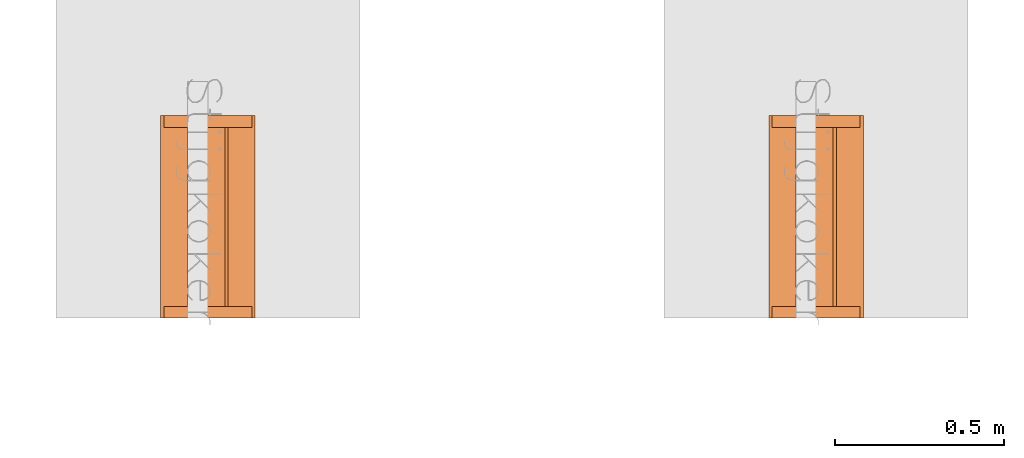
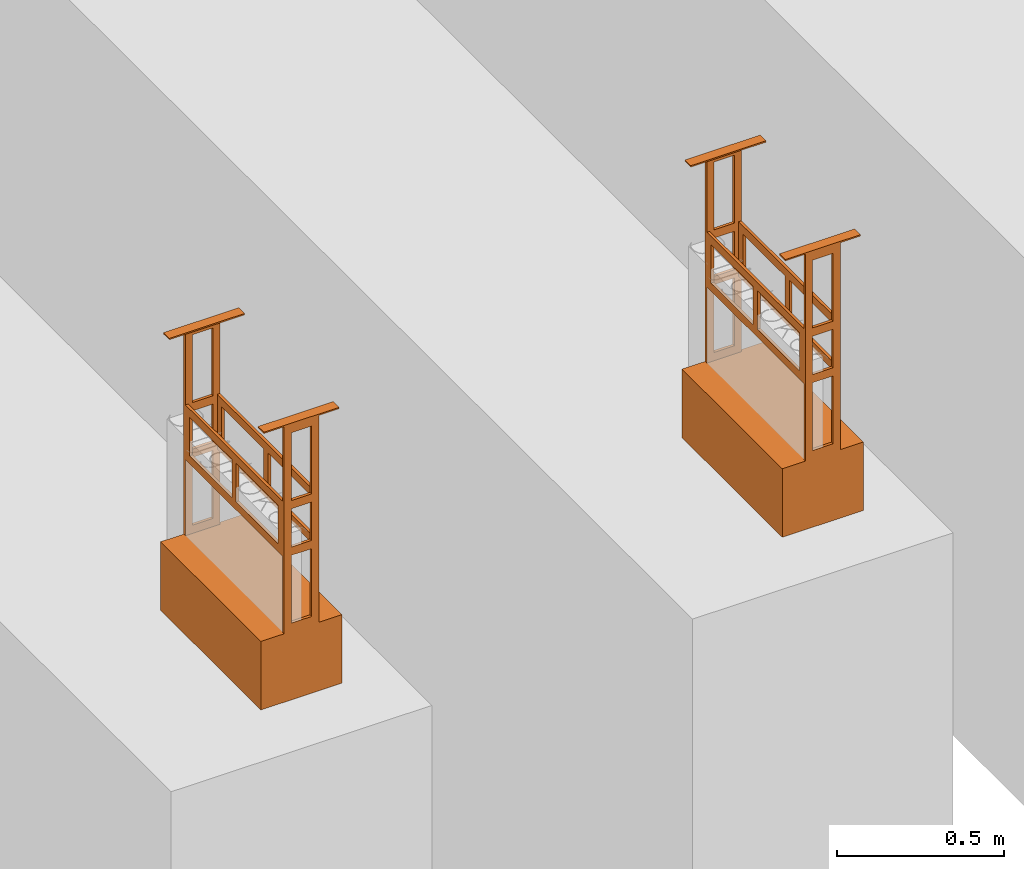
# One storey, part 22 of 43: 2 proxies.
"""IFC2X3 building model written with IfcOpenShell, lengths in metres."""

import ifcopenshell
import ifcopenshell.guid

model = None  # the IFC model being written
_history = None  # IfcOwnerHistory: only IFC2X3 demands one
_inside = {}  # id of a spatial element -> (the spatial element, [elements in it])
_under = {}  # id of a project, library or spatial element -> (it, [spatial elements below it])
_declared = {}  # id of a project -> (the project, [libraries it declares])
_typed = {}  # id of a type object -> (the type object, [elements of that type])
_made_of = {}  # id of a material, layer set ... -> (it, [elements and type objects made of it])


def new_model(schema):
    """Start an empty IFC model of exactly this schema.

    Asked for "IFC4X3", IfcOpenShell would pick the latest addendum, in which some entities
    have other attributes; the version numbers below select the first issue.
    IFC2X3 requires an IfcOwnerHistory on every rooted entity: one is made here for all.
    """
    global model, _history
    if schema == "IFC4X3":
        model = ifcopenshell.file(schema_version=(4, 3, 0, 0))
    else:
        model = ifcopenshell.file(schema=schema)
    _inside.clear()
    _under.clear()
    _declared.clear()
    _typed.clear()
    _made_of.clear()
    _history = None
    if model.schema == "IFC2X3":
        org = make("IfcOrganization", Name="unknown")
        user = make(
            "IfcPersonAndOrganization",
            ThePerson=make("IfcPerson", FamilyName="unknown"),
            TheOrganization=org,
        )
        app = make(
            "IfcApplication",
            ApplicationDeveloper=org,
            Version="unknown",
            ApplicationFullName="unknown",
            ApplicationIdentifier="unknown",
        )
        _history = make(
            "IfcOwnerHistory",
            OwningUser=user,
            OwningApplication=app,
            ChangeAction="ADDED",
            CreationDate=0,
        )
    return model


def make(cls, **values):
    """One entity of the class cls with the attributes given. An attribute that is None is left unset."""
    return model.create_entity(
        cls, **{name: value for name, value in values.items() if value is not None}
    )


def entity(cls, *values):
    """Any entity or typed value of the class cls, its attributes in the order of the schema. None: left unset."""
    e = model.create_entity(cls)
    for i, value in enumerate(values):
        if value is not None:
            e[i] = value
    return e


def rooted(cls, **values):
    """An entity with a GlobalId (a new one), such as an element, a storey or a relation."""
    return make(cls, GlobalId=ifcopenshell.guid.new(), OwnerHistory=_history, **values)


def si_unit(unit_type, name, prefix=None):
    """IfcSIUnit, for example si_unit("LENGTHUNIT", "METRE", prefix="MILLI")."""
    return make("IfcSIUnit", UnitType=unit_type, Prefix=prefix, Name=name)


def converted_unit(unit_type, name, factor, base, dimensions=None, offset=None):
    """IfcConversionBasedUnit, such as the inch: factor (a typed value) times the base unit."""
    return make(
        "IfcConversionBasedUnit"
        if offset is None
        else "IfcConversionBasedUnitWithOffset",
        ConversionOffset=offset,
        Dimensions=None
        if dimensions is None
        else entity("IfcDimensionalExponents", *dimensions),
        UnitType=unit_type,
        Name=name,
        ConversionFactor=make(
            "IfcMeasureWithUnit", ValueComponent=factor, UnitComponent=base
        ),
    )


def derived_unit(unit_type, elements):
    """IfcDerivedUnit: a product of units, each with its exponent."""
    return make(
        "IfcDerivedUnit",
        Elements=[
            make("IfcDerivedUnitElement", Unit=unit, Exponent=power)
            for unit, power in elements
        ],
        UnitType=unit_type,
    )


def assignment(units):
    """IfcUnitAssignment: the units of a project."""
    return None if units is None else make("IfcUnitAssignment", Units=units)


def point(xyz):
    """IfcCartesianPoint."""
    return None if xyz is None else make("IfcCartesianPoint", Coordinates=xyz)


def direction(xyz):
    """IfcDirection."""
    return None if xyz is None else make("IfcDirection", DirectionRatios=xyz)


def frame(location, z_axis=None, x_axis=None):
    """IfcAxis2Placement3D, a coordinate frame: its origin and axes. An axis left out is left unset."""
    return make(
        "IfcAxis2Placement3D",
        Location=point(location),
        Axis=direction(z_axis),
        RefDirection=direction(x_axis),
    )


def origin():
    """The frame at (0, 0, 0) with its axes left unset."""
    return frame((0.0, 0.0, 0.0))


def place(relative_to, where):
    """IfcLocalPlacement: puts the frame where relative to a parent placement (None: the world)."""
    return make(
        "IfcLocalPlacement", PlacementRelTo=relative_to, RelativePlacement=where
    )


def context(
    kind, dimensions, precision=None, world=None, true_north=None, identifier=None
):
    """IfcGeometricRepresentationContext, for example the 3D "Model" context."""
    return make(
        "IfcGeometricRepresentationContext",
        ContextIdentifier=identifier,
        ContextType=kind,
        CoordinateSpaceDimension=dimensions,
        Precision=precision,
        WorldCoordinateSystem=world,
        TrueNorth=true_north,
    )


def subcontext(parent, identifier, kind, view, scale=None):
    """IfcGeometricRepresentationSubContext, for example "Body" below "Model"."""
    return make(
        "IfcGeometricRepresentationSubContext",
        ContextIdentifier=identifier,
        ContextType=kind,
        ParentContext=parent,
        TargetScale=scale,
        TargetView=view,
    )


def project(units=None, contexts=None):
    """IfcProject with its units and contexts."""
    return rooted(
        "IfcProject",
        Name="project",
        RepresentationContexts=contexts,
        UnitsInContext=assignment(units),
    )


def spatial(cls, under=None, at=None, **own):
    """A site, building, storey or space (cls), placed at a placement, below another one or the project."""
    s = rooted(cls, ObjectPlacement=at, **own)
    if under is not None:
        _under.setdefault(under.id(), (under, []))[1].append(s)
    return s


def faces_of(points, faces, orient=None, outer=None):
    """IfcFace entities. A face is a list of loops; a loop is a list of indices into points, from 0.

    orient and outer hold one flag for each loop. By default every Orientation is true, the
    first loop of a face is its IfcFaceOuterBound and the others are IfcFaceBound.
    """
    made = []
    for i, loops in enumerate(faces):
        bounds = []
        for j, loop in enumerate(loops):
            is_outer = j == 0 if outer is None else outer[i][j]
            bounds.append(
                make(
                    "IfcFaceOuterBound" if is_outer else "IfcFaceBound",
                    Bound=make("IfcPolyLoop", Polygon=[points[k] for k in loop]),
                    Orientation=True if orient is None else orient[i][j],
                )
            )
        made.append(make("IfcFace", Bounds=bounds))
    return made


def faceted_brep(points, faces, orient=None, outer=None, voids=None):
    """IfcFacetedBrep: a solid bounded by flat faces; with voids (closed shells), ...WithVoids."""
    shared = [point(p) for p in points]
    hull = make("IfcClosedShell", CfsFaces=faces_of(shared, faces, orient, outer))
    if voids is None:
        return make("IfcFacetedBrep", Outer=hull)
    return make(
        "IfcFacetedBrepWithVoids",
        Outer=hull,
        Voids=[
            make(cls, CfsFaces=faces_of(shared, fs, o, b)) for cls, fs, o, b in voids
        ],
    )


def shape(context_of_items, identifier, shape_type, items):
    """IfcShapeRepresentation: the items that make up one representation, for example the "Body"."""
    return make(
        "IfcShapeRepresentation",
        ContextOfItems=context_of_items,
        RepresentationIdentifier=identifier,
        RepresentationType=shape_type,
        Items=items,
    )


def source(mapping_origin, context_of_items, identifier, shape_type, items):
    """IfcRepresentationMap: a shape defined once, which mapped items show again and again."""
    return make(
        "IfcRepresentationMap",
        MappingOrigin=mapping_origin,
        MappedRepresentation=shape(context_of_items, identifier, shape_type, items),
    )


def transform(
    local_origin,
    x_axis=None,
    y_axis=None,
    z_axis=None,
    scale=None,
    scale2=None,
    scale3=None,
    uniform=True,
):
    """IfcCartesianTransformationOperator3D, or its non-uniform kind. x_axis, y_axis, z_axis: its Axis1, 2, 3."""
    if uniform:
        return make(
            "IfcCartesianTransformationOperator3D",
            Axis1=direction(x_axis),
            Axis2=direction(y_axis),
            LocalOrigin=point(local_origin),
            Scale=scale,
            Axis3=direction(z_axis),
        )
    return make(
        "IfcCartesianTransformationOperator3DnonUniform",
        Axis1=direction(x_axis),
        Axis2=direction(y_axis),
        LocalOrigin=point(local_origin),
        Scale=scale,
        Axis3=direction(z_axis),
        Scale2=scale2,
        Scale3=scale3,
    )


def mapped(mapping_source, mapping_target):
    """IfcMappedItem: shows the shape of a source again, moved by a transform."""
    return make(
        "IfcMappedItem", MappingSource=mapping_source, MappingTarget=mapping_target
    )


def material(Name=None, Category=None):
    """IfcMaterial."""
    return make("IfcMaterial", Name=Name, Category=Category)


def material_list(materials):
    """IfcMaterialList."""
    return make("IfcMaterialList", Materials=materials)


def made_of(thing, what):
    """Note that an element or type object is made of a material, layer set ...; save() writes the relation."""
    if what is not None:
        _made_of.setdefault(what.id(), (what, []))[1].append(thing)
    return thing


def type_object(cls, material=None, **own):
    """A type object (cls), such as IfcWallType, which elements share."""
    return made_of(rooted(cls, **own), material)


def type_shapes(of_type, sources):
    """Give a type object the sources (RepresentationMaps) that its elements show as mapped items."""
    of_type.RepresentationMaps = sources


def element(
    cls,
    number,
    at=None,
    inside=None,
    cuts=None,
    type_object=None,
    material=None,
    context=None,
    identifier="Body",
    shape_type=None,
    held_by="IfcProductDefinitionShape",
    body=None,
    shapes=None,
    **own,
):
    """One element of the class cls, such as IfcWall. Its Tag is "e" and its number.

    at: its placement. inside: the storey or other place that contains it. cuts: it is an
    opening in that element (IfcRelVoidsElement). A single representation is given by context,
    identifier, shape_type and body (its items); several are given by shapes. held_by: the class
    of the entity that holds the representations. save() writes the other relations.
    """
    e = rooted(cls, Tag="e%d" % number, ObjectPlacement=at, **own)
    if body is not None:
        shapes = [shape(context, identifier, shape_type, body)]
    if shapes is not None:
        e.Representation = make(held_by, Representations=shapes)
    if inside is not None:
        _inside.setdefault(inside.id(), (inside, []))[1].append(e)
    if cuts is not None:
        rooted(
            "IfcRelVoidsElement", RelatingBuildingElement=cuts, RelatedOpeningElement=e
        )
    if type_object is not None:
        _typed.setdefault(type_object.id(), (type_object, []))[1].append(e)
    return made_of(e, material)


def aggregate(whole, parts):
    """IfcRelAggregates: a whole, such as a stair, and the parts it consists of."""
    return rooted("IfcRelAggregates", RelatingObject=whole, RelatedObjects=parts)


def save(model, path):
    """Write the relations noted so far, then the file.

    IfcRelAggregates (storeys below a building ...), IfcRelContainedInSpatialStructure (elements
    in a storey), IfcRelDefinesByType, IfcRelAssociatesMaterial and IfcRelDeclares: one each for
    every whole, place, type object, material and project.
    """
    for whole, parts in _under.values():
        aggregate(whole, parts)
    for where, things in _inside.values():
        rooted(
            "IfcRelContainedInSpatialStructure",
            RelatedElements=things,
            RelatingStructure=where,
        )
    for kind, things in _typed.values():
        rooted("IfcRelDefinesByType", RelatedObjects=things, RelatingType=kind)
    for what, things in _made_of.values():
        rooted("IfcRelAssociatesMaterial", RelatedObjects=things, RelatingMaterial=what)
    for by, libraries in _declared.values():
        rooted("IfcRelDeclares", RelatingContext=by, RelatedDefinitions=libraries)
    model.write(path)


model = new_model("IFC2X3")

# Units and contexts
model_context = context("Model", 3, precision=1e-05, world=origin(), true_north=direction((6.12303176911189e-17, 1.0)))
body_context = subcontext(model_context, "Body", "Model", "MODEL_VIEW")
ifc_project = project(units=[si_unit("LENGTHUNIT", "METRE"), si_unit("AREAUNIT", "SQUARE_METRE"), si_unit("VOLUMEUNIT", "CUBIC_METRE"), converted_unit("PLANEANGLEUNIT", "DEGREE", entity("IfcRatioMeasure", 0.0174532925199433), si_unit("PLANEANGLEUNIT", "RADIAN"), dimensions=[0, 0, 0, 0, 0, 0, 0]), si_unit("MASSUNIT", "GRAM", prefix="KILO"), derived_unit("MASSDENSITYUNIT", [(si_unit("MASSUNIT", "GRAM", prefix="KILO"), 1), (si_unit("LENGTHUNIT", "METRE"), -3)]), derived_unit("MOMENTOFINERTIAUNIT", [(si_unit("LENGTHUNIT", "METRE"), 4)]), si_unit("TIMEUNIT", "SECOND"), si_unit("FREQUENCYUNIT", "HERTZ"), si_unit("THERMODYNAMICTEMPERATUREUNIT", "DEGREE_CELSIUS"), derived_unit("THERMALTRANSMITTANCEUNIT", [(si_unit("MASSUNIT", "GRAM", prefix="KILO"), 1), (si_unit("THERMODYNAMICTEMPERATUREUNIT", "KELVIN"), -1), (si_unit("TIMEUNIT", "SECOND"), -3)]), derived_unit("VOLUMETRICFLOWRATEUNIT", [(si_unit("LENGTHUNIT", "METRE"), 3), (si_unit("TIMEUNIT", "SECOND"), -1)]), si_unit("ELECTRICCURRENTUNIT", "AMPERE"), si_unit("ELECTRICVOLTAGEUNIT", "VOLT"), si_unit("POWERUNIT", "WATT"), si_unit("FORCEUNIT", "NEWTON", prefix="KILO"), si_unit("ILLUMINANCEUNIT", "LUX"), si_unit("LUMINOUSFLUXUNIT", "LUMEN"), si_unit("LUMINOUSINTENSITYUNIT", "CANDELA"), derived_unit("USERDEFINED", [(si_unit("MASSUNIT", "GRAM", prefix="KILO"), -1), (si_unit("LENGTHUNIT", "METRE"), -2), (si_unit("TIMEUNIT", "SECOND"), 3), (si_unit("LUMINOUSFLUXUNIT", "LUMEN"), 1)]), derived_unit("LINEARVELOCITYUNIT", [(si_unit("LENGTHUNIT", "METRE"), 1), (si_unit("TIMEUNIT", "SECOND"), -1)]), si_unit("PRESSUREUNIT", "PASCAL"), derived_unit("USERDEFINED", [(si_unit("LENGTHUNIT", "METRE"), -2), (si_unit("MASSUNIT", "GRAM", prefix="KILO"), 1), (si_unit("TIMEUNIT", "SECOND"), -2)]), derived_unit("LINEARFORCEUNIT", [(si_unit("MASSUNIT", "GRAM", prefix="KILO"), 1), (si_unit("LENGTHUNIT", "METRE"), 1), (si_unit("TIMEUNIT", "SECOND"), -2), (si_unit("LENGTHUNIT", "METRE"), -1)]), derived_unit("PLANARFORCEUNIT", [(si_unit("MASSUNIT", "GRAM", prefix="KILO"), 1), (si_unit("LENGTHUNIT", "METRE"), 1), (si_unit("TIMEUNIT", "SECOND"), -2), (si_unit("LENGTHUNIT", "METRE"), -2)])], contexts=[model_context])

# Site, building, storey
site_placement = place(None, origin())
site = spatial("IfcSite", under=ifc_project, at=site_placement, Name="Default", CompositionType="ELEMENT")
building_placement = place(site_placement, origin())
building = spatial("IfcBuilding", under=site, at=building_placement, CompositionType="ELEMENT")
storey_placement = place(building_placement, frame((0.0, 0.0, 3.0)))
storey = spatial("IfcBuildingStorey", under=building, at=storey_placement, Name="01 OG", CompositionType="ELEMENT", Elevation=3.0)

# Proxies
ifc_material_1 = material(Name="dh_Weiß")
ifc_material_2 = material(Name="dh_EZ blau")
ifc_material_list = material_list([ifc_material_2, ifc_material_1])
building_element_proxy_type = type_object("IfcBuildingElementProxyType", Name="dh_Doppel_ MEK:DMEK 60", PredefinedType="NOTDEFINED", material=ifc_material_list)
shared_shape = source(origin(), body_context, "Body", "Brep", [
    faceted_brep([(0.00999999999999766, 0.2, 1.00500000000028), (0.00999999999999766, 0.0800000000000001, 1.00500000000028), (0.00999999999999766, 0.0800000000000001, 0.727500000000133), (0.00999999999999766, 0.0899999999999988, 0.727500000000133), (0.00999999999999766, 0.0899999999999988, 0.527500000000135), (0.00999999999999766, 0.0800000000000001, 0.527500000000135), (0.00999999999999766, 0.0800000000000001, 0.249999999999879), (0.00999999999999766, 0.2, 0.249999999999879), (0.00999999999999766, 0.2, 0.527500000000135), (0.00999999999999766, 0.189999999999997, 0.527500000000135), (0.00999999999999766, 0.189999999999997, 0.727500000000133), (0.00999999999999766, 0.2, 0.727500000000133), (0.00999999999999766, 0.175, 0.975000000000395), (0.00999999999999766, 0.175, 0.727500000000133), (0.00999999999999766, 0.105, 0.727500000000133), (0.00999999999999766, 0.105, 0.975000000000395), (0.00999999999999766, 0.175, 0.527500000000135), (0.00999999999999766, 0.175, 0.27999999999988), (0.00999999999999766, 0.105, 0.279999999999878), (0.00999999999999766, 0.105, 0.527500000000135), (0.00999999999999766, 0.175000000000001, 0.697500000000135), (0.00999999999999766, 0.175000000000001, 0.557500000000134), (0.00999999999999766, 0.105000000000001, 0.557500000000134), (0.00999999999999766, 0.105000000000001, 0.697500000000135), (0.0, 0.2, 1.00500000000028), (0.0, 0.2, 0.249999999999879), (0.0, 0.0800000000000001, 0.249999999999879), (0.0, 0.0800000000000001, 1.00500000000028), (0.0, 0.175, 0.975000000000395), (0.0, 0.105, 0.975000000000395), (0.0, 0.105, 0.727500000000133), (0.0, 0.175, 0.727500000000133), (0.0, 0.175, 0.527500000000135), (0.0, 0.105, 0.527500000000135), (0.0, 0.105, 0.279999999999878), (0.0, 0.175, 0.27999999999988), (0.0, 0.175000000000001, 0.697500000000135), (0.0, 0.105000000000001, 0.697500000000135), (0.0, 0.105000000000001, 0.557500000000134), (0.0, 0.175000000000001, 0.557500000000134), (0.589999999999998, 0.0800000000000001, 0.527500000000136), (0.589999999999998, 0.0800000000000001, 0.249999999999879), (0.6, 0.0800000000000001, 0.249999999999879), (0.6, 0.0800000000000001, 1.00500000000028), (0.589999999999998, 0.0800000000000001, 1.00500000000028), (0.589999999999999, 0.0800000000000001, 0.727500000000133), (0.312500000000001, 0.0800000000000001, 0.697500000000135), (0.564999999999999, 0.0800000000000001, 0.697500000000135), (0.564999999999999, 0.0800000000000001, 0.557500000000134), (0.312500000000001, 0.0800000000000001, 0.557500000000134), (0.0349999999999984, 0.0800000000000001, 0.697500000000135), (0.287500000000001, 0.0800000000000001, 0.697500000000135), (0.287500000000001, 0.0800000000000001, 0.557500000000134), (0.0349999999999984, 0.0800000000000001, 0.557500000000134), (0.589999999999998, 0.2, 0.727500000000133), (0.589999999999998, 0.2, 1.00500000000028), (0.6, 0.2, 1.00500000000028), (0.6, 0.2, 0.249999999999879), (0.589999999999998, 0.2, 0.249999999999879), (0.589999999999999, 0.2, 0.527500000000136), (0.0349999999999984, 0.2, 0.697500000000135), (0.0349999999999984, 0.2, 0.557500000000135), (0.287500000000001, 0.2, 0.557500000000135), (0.287500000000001, 0.2, 0.697500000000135), (0.312500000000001, 0.2, 0.697500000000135), (0.312500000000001, 0.2, 0.557500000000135), (0.564999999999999, 0.2, 0.557500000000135), (0.564999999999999, 0.2, 0.697500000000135), (0.589999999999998, 0.0899999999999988, 0.727500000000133), (0.589999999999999, 0.0899999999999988, 0.527500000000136), (0.312500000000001, 0.0899999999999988, 0.697500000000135), (0.312500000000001, 0.0899999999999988, 0.557500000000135), (0.564999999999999, 0.0899999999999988, 0.557500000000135), (0.564999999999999, 0.0899999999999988, 0.697500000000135), (0.0349999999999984, 0.0899999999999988, 0.697500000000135), (0.0349999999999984, 0.0899999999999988, 0.557500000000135), (0.287500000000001, 0.0899999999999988, 0.557500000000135), (0.287500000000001, 0.0899999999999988, 0.697500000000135), (0.589999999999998, 0.189999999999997, 0.527500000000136), (0.589999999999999, 0.189999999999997, 0.727500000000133), (0.0349999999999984, 0.189999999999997, 0.697500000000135), (0.287500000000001, 0.189999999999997, 0.697500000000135), (0.287500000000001, 0.189999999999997, 0.557500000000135), (0.0349999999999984, 0.189999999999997, 0.557500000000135), (0.312500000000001, 0.189999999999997, 0.697500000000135), (0.564999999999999, 0.189999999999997, 0.697500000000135), (0.564999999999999, 0.189999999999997, 0.557500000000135), (0.312500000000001, 0.189999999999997, 0.557500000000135), (0.6, 0.175, 0.975000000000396), (0.6, 0.175, 0.727500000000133), (0.6, 0.105, 0.727500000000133), (0.6, 0.105, 0.975000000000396), (0.6, 0.175000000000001, 0.697500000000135), (0.6, 0.175000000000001, 0.557500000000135), (0.6, 0.105000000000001, 0.557500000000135), (0.6, 0.105000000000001, 0.697500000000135), (0.6, 0.105, 0.279999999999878), (0.6, 0.105, 0.527500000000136), (0.6, 0.175, 0.527500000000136), (0.6, 0.175, 0.27999999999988), (0.589999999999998, 0.175, 0.975000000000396), (0.589999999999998, 0.105, 0.975000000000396), (0.589999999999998, 0.105, 0.727500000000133), (0.589999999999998, 0.175, 0.727500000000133), (0.589999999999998, 0.175000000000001, 0.697500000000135), (0.589999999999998, 0.105000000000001, 0.697500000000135), (0.589999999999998, 0.105000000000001, 0.557500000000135), (0.589999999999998, 0.175000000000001, 0.557500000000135), (0.589999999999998, 0.105, 0.279999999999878), (0.589999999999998, 0.175, 0.27999999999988), (0.589999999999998, 0.175, 0.527500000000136), (0.589999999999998, 0.105, 0.527500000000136)], [[[0, 1, 2, 3, 4, 5, 6, 7, 8, 9, 10, 11], [12, 13, 14, 15], [16, 17, 18, 19], [20, 21, 22, 23]], [[24, 25, 26, 27], [28, 29, 30, 31], [32, 33, 34, 35], [36, 37, 38, 39]], [[1, 0, 24, 27]], [[27, 26, 6, 5, 40, 41, 42, 43, 44, 45, 2, 1], [46, 47, 48, 49], [50, 51, 52, 53]], [[7, 6, 26, 25]], [[25, 24, 0, 11, 54, 55, 56, 57, 58, 59, 8, 7], [60, 61, 62, 63], [64, 65, 66, 67]], [[13, 12, 28, 31]], [[14, 13, 31, 30]], [[15, 14, 30, 29]], [[12, 15, 29, 28]], [[17, 16, 32, 35]], [[18, 17, 35, 34]], [[19, 18, 34, 33]], [[16, 19, 33, 32]], [[21, 20, 36, 39]], [[22, 21, 39, 38]], [[23, 22, 38, 37]], [[20, 23, 37, 36]], [[3, 68, 69, 4], [70, 71, 72, 73], [74, 75, 76, 77]], [[40, 5, 4, 69]], [[2, 45, 68, 3]], [[47, 46, 70, 73]], [[48, 47, 73, 72]], [[49, 48, 72, 71]], [[46, 49, 71, 70]], [[51, 50, 74, 77]], [[52, 51, 77, 76]], [[53, 52, 76, 75]], [[50, 53, 75, 74]], [[9, 78, 79, 10], [80, 81, 82, 83], [84, 85, 86, 87]], [[78, 9, 8, 59]], [[10, 79, 54, 11]], [[81, 80, 60, 63]], [[82, 81, 63, 62]], [[83, 82, 62, 61]], [[80, 83, 61, 60]], [[85, 84, 64, 67]], [[86, 85, 67, 66]], [[87, 86, 66, 65]], [[84, 87, 65, 64]], [[42, 57, 56, 43], [88, 89, 90, 91], [92, 93, 94, 95], [96, 97, 98, 99]], [[44, 55, 54, 79, 78, 59, 58, 41, 40, 69, 68, 45], [100, 101, 102, 103], [104, 105, 106, 107], [108, 109, 110, 111]], [[57, 42, 41, 58]], [[43, 56, 55, 44]], [[89, 88, 100, 103]], [[90, 89, 103, 102]], [[91, 90, 102, 101]], [[88, 91, 101, 100]], [[93, 92, 104, 107]], [[94, 93, 107, 106]], [[95, 94, 106, 105]], [[92, 95, 105, 104]], [[97, 96, 108, 111]], [[98, 97, 111, 110]], [[99, 98, 110, 109]], [[96, 99, 109, 108]]]),
    faceted_brep([(0.564999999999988, 0.0100000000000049, 1.01000000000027), (0.600000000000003, 0.0100000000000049, 1.01000000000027), (0.600000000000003, 0.270000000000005, 1.01000000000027), (0.564999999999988, 0.270000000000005, 1.01000000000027), (0.564999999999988, 0.0100000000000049, 1.00500000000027), (0.600000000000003, 0.0100000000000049, 1.00500000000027), (0.600000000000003, 0.270000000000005, 1.00500000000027), (0.564999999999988, 0.270000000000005, 1.00500000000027)], [[[0, 1, 2, 3]], [[1, 0, 4, 5]], [[2, 1, 5, 6]], [[3, 2, 6, 7]], [[0, 3, 7, 4]], [[4, 7, 6, 5]]]),
    faceted_brep([(0.034999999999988, 0.270000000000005, 1.00500000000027), (0.034999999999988, 0.0100000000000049, 1.00500000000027), (0.0, 0.0100000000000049, 1.00500000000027), (0.0, 0.270000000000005, 1.00500000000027), (0.0, 0.270000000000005, 1.01000000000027), (0.034999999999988, 0.270000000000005, 1.01000000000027), (0.0, 0.0100000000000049, 1.01000000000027), (0.034999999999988, 0.0100000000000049, 1.01000000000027)], [[[0, 1, 2, 3]], [[4, 5, 0, 3]], [[6, 4, 3, 2]], [[7, 6, 2, 1]], [[5, 7, 1, 0]], [[5, 4, 6, 7]]]),
    faceted_brep([(0.0, 0.2, 0.249999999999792), (0.0100000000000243, 0.2, 0.249999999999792), (0.590000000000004, 0.2, 0.249999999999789), (0.600000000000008, 0.2, 0.249999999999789), (0.600000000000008, 0.28, 0.249999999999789), (0.0, 0.28, 0.249999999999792), (0.0, 0.2, 0.244999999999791), (0.0, 0.28, 0.244999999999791), (0.600000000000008, 0.28, 0.244999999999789), (0.600000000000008, 0.2, 0.244999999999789), (0.590000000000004, 0.2, 0.244999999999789), (0.0100000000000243, 0.2, 0.244999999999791)], [[[0, 1, 2, 3, 4, 5]], [[6, 7, 8, 9, 10, 11]], [[0, 5, 7, 6]], [[5, 4, 8, 7]], [[4, 3, 9, 8]], [[3, 2, 10, 9]], [[2, 1, 11, 10]], [[1, 0, 6, 11]]]),
    faceted_brep([(0.6, 0.280000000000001, 0.245000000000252), (0.6, 0.200000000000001, 0.245000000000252), (0.6, 0.200000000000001, 0.00500000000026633), (0.6, 0.280000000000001, 0.00500000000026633), (0.0, 0.280000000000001, 0.245000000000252), (0.0, 0.280000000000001, 0.00500000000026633), (0.0, 0.200000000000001, 0.00500000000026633), (0.0, 0.200000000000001, 0.245000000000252)], [[[0, 1, 2, 3]], [[4, 5, 6, 7]], [[0, 3, 5, 4]], [[3, 2, 6, 5]], [[2, 1, 7, 6]], [[1, 0, 4, 7]]]),
    faceted_brep([(0.600000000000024, 0.08, 0.249999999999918), (0.600000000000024, 0.2, 0.249999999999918), (0.590000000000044, 0.2, 0.249999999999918), (0.590000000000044, 0.08, 0.249999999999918), (0.600000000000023, 0.08, 0.00500000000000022), (0.590000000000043, 0.08, 0.00500000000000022), (0.590000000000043, 0.2, 0.00500000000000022), (0.600000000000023, 0.2, 0.00500000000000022)], [[[0, 1, 2, 3]], [[4, 5, 6, 7]], [[1, 0, 4, 7]], [[2, 1, 7, 6]], [[3, 2, 6, 5]], [[0, 3, 5, 4]]]),
    faceted_brep([(0.0100000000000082, 0.2, 0.24999999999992), (0.0100000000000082, 0.08, 0.24999999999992), (0.0100000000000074, 0.08, 0.00500000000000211), (0.0100000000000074, 0.2, 0.00500000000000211), (0.0, 0.2, 0.24999999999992), (0.0, 0.2, 0.00500000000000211), (0.0, 0.08, 0.24999999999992), (0.0, 0.08, 0.00500000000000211)], [[[0, 1, 2, 3]], [[4, 0, 3, 5]], [[6, 4, 5, 7]], [[1, 6, 7, 2]], [[2, 7, 5, 3]], [[1, 0, 4, 6]]]),
    faceted_brep([(0.590000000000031, 0.08, 0.249999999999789), (0.590000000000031, 0.2, 0.249999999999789), (0.0100000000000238, 0.2, 0.249999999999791), (0.0100000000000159, 0.08, 0.249999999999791), (0.590000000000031, 0.08, 0.244999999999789), (0.0100000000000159, 0.08, 0.244999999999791), (0.0100000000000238, 0.2, 0.244999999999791), (0.590000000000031, 0.2, 0.244999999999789)], [[[0, 1, 2, 3]], [[4, 5, 6, 7]], [[1, 0, 4, 7]], [[2, 1, 7, 6]], [[3, 2, 6, 5]], [[0, 3, 5, 4]]]),
    faceted_brep([(0.0, 0.0, 0.0), (0.0, 0.0799999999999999, 0.0), (0.0, 0.28, 0.0), (0.600000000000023, 0.28, 0.0), (0.600000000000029, 0.0799999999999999, 0.0), (0.600000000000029, 0.0, 0.0), (0.0, 0.0, 0.00500000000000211), (0.600000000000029, 0.0, 0.00500000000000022), (0.600000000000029, 0.0799999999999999, 0.00500000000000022), (0.600000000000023, 0.28, 0.00500000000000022), (0.0, 0.28, 0.00500000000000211), (0.0, 0.0799999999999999, 0.00500000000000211)], [[[0, 1, 2, 3, 4, 5]], [[6, 7, 8, 9, 10, 11]], [[7, 6, 0, 5]], [[8, 7, 5, 4]], [[9, 8, 4, 3]], [[10, 9, 3, 2]], [[11, 10, 2, 1]], [[6, 11, 1, 0]]]),
    faceted_brep([(0.0, 0.08, 0.249999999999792), (0.0, 0.0, 0.249999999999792), (0.600000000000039, 0.0, 0.249999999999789), (0.600000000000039, 0.08, 0.249999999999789), (0.590000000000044, 0.08, 0.249999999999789), (0.0100000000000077, 0.08, 0.249999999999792), (0.0, 0.08, 0.244999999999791), (0.0100000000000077, 0.08, 0.244999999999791), (0.590000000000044, 0.08, 0.244999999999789), (0.600000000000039, 0.08, 0.244999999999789), (0.600000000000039, 0.0, 0.244999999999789), (0.0, 0.0, 0.244999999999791)], [[[0, 1, 2, 3, 4, 5]], [[6, 7, 8, 9, 10, 11]], [[1, 0, 6, 11]], [[2, 1, 11, 10]], [[3, 2, 10, 9]], [[4, 3, 9, 8]], [[5, 4, 8, 7]], [[0, 5, 7, 6]]]),
    faceted_brep([(0.6, 0.0, 0.24500000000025), (0.6, 0.0, 0.00500000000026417), (0.6, 0.08, 0.00500000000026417), (0.6, 0.08, 0.24500000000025), (0.0, 0.0, 0.24500000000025), (0.0, 0.08, 0.24500000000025), (0.0, 0.08, 0.00500000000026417), (0.0, 0.0, 0.00500000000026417)], [[[0, 1, 2, 3]], [[4, 5, 6, 7]], [[1, 0, 4, 7]], [[2, 1, 7, 6]], [[3, 2, 6, 5]], [[0, 3, 5, 4]]]),
])
type_shapes(building_element_proxy_type, [shared_shape])
for number, where, z_axis, x_axis, name in (
    (1, (13.7400000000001, 17.5240000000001, 2.88999999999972), (0.0, 0.0, 1.0), (0.0, 1.0, 0.0), "dh_Doppel_ MEK:DMEK 60"),
    (2, (11.9400000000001, 17.5240000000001, 2.88999999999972), (0.0, 0.0, 1.0), (0.0, 1.0, 0.0), "dh_Doppel_ MEK:DMEK 60"),
):
    element("IfcBuildingElementProxy", number, at=place(storey_placement, frame(where, z_axis=z_axis, x_axis=x_axis)), inside=storey, type_object=building_element_proxy_type, material=ifc_material_1, Name=name, ObjectType="dh_Doppel_ MEK:DMEK 60", context=body_context, shape_type="MappedRepresentation", body=[
        mapped(shared_shape, transform((0.0, 0.0, 0.0), scale=1.0)),
    ])

save(model, "model.ifc")
